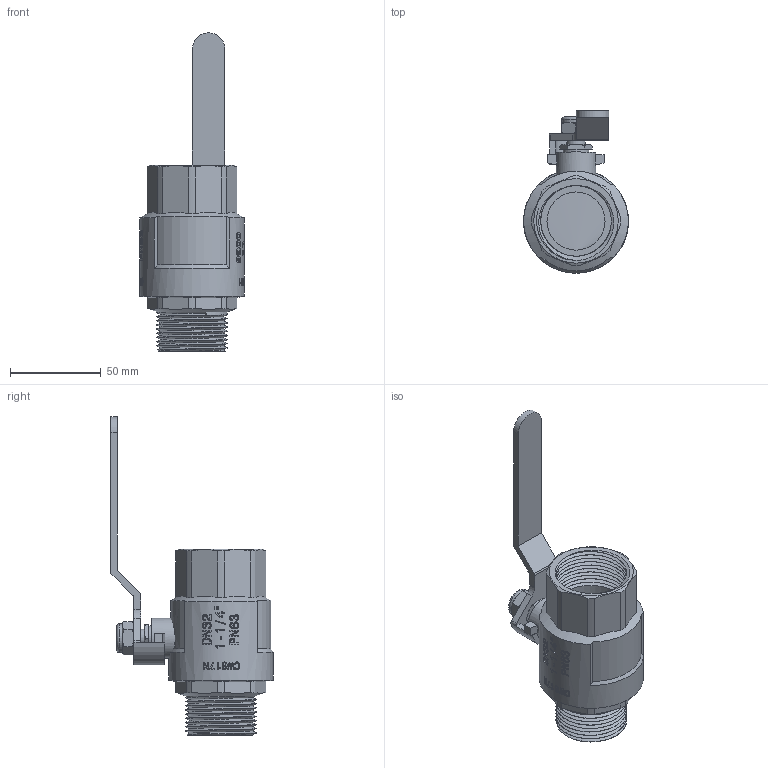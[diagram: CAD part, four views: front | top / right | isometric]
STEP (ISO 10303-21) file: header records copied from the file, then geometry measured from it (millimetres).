
FILE_DESCRIPTION(/* description */ (''),/* implementation_level */ '2;1');
FILE_NAME(/* name */ 'F:\Артём\00000\Работа удаленка\0\B\VT.315.N.07.stp',/* time_stamp */ '2021-02-03T15:53:17+03:00',/* author */ ('almis'),/* organization */ (''),/* preprocessor_version */ 'ST-DEVELOPER v18',/* originating_system */ 'Autodesk Inventor 2020',/* authorisation */ '');
FILE_SCHEMA (('AUTOMOTIVE_DESIGN { 1 0 10303 214 3 1 1 }'));
Length unit declared in the file: millimetre
Products named in the file (1): VT.314_ВВ_1-1%4
Bounding box: 57.7 x 89.31 x 175.28 mm (x, y, z)
Volume: 121201.9 mm3; surface area: 46660.7 mm2
Topology: 1 solids, 1 shells, 599 faces, 1603 edges, 1066 vertices
Faces by surface type: plane 236, bspline 217, cylinder 133, cone 11, torus 2
Full cylindrical faces by diameter (mm): 10.109 x1, 13.99 x1, 15.715 x1, 22 x1, 32 x1, 34.288 x10, 38.888 x8, 38.9 x11, 43.5 x12, 57.5 x1
Entity records: 29091 total; most frequent: CARTESIAN_POINT 15317, ORIENTED_EDGE 3206, DIRECTION 2065, EDGE_CURVE 1603, VERTEX_POINT 1066, LINE 739, VECTOR 739, AXIS2_PLACEMENT_3D 663
